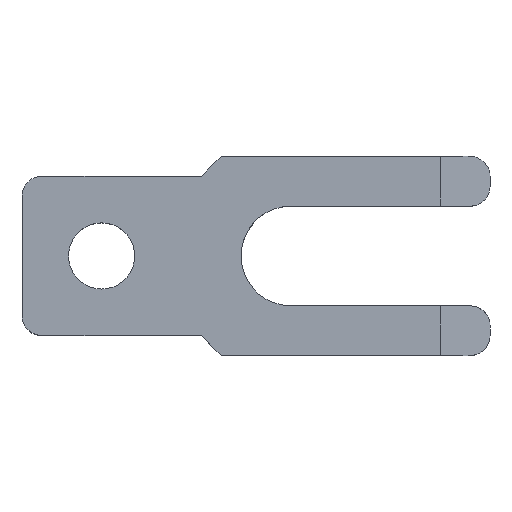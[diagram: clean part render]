
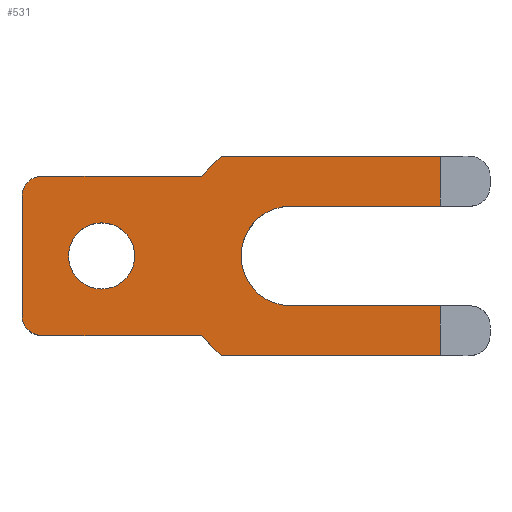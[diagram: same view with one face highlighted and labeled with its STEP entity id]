
A CAD part, top view. The second image highlights one B-rep face of the part: STEP entity #531.
In plain terms, the highlighted planar face has unit normal (0, 0, 1).
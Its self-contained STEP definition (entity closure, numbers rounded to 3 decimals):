
#17=FACE_BOUND('',#92,.T.);
#36=PLANE('',#577);
#62=FACE_OUTER_BOUND('',#91,.T.);
#91=EDGE_LOOP('',(#482,#483,#484,#485,#486,#487,#488,#489,#490,#491,#492,
#493,#494,#495));
#92=EDGE_LOOP('',(#496));
#97=CIRCLE('',#552,2.);
#102=CIRCLE('',#560,2.);
#103=CIRCLE('',#571,3.324);
#104=CIRCLE('',#574,5.);
#109=LINE('',#742,#167);
#118=LINE('',#769,#176);
#136=LINE('',#818,#194);
#147=LINE('',#840,#205);
#149=LINE('',#844,#207);
#150=LINE('',#846,#208);
#153=LINE('',#851,#211);
#155=LINE('',#855,#213);
#157=LINE('',#859,#215);
#159=LINE('',#867,#217);
#162=LINE('',#873,#220);
#167=VECTOR('',#594,5.);
#176=VECTOR('',#619,5.);
#194=VECTOR('',#659,12.);
#205=VECTOR('',#680,22.);
#207=VECTOR('',#684,2.828);
#208=VECTOR('',#687,16.);
#211=VECTOR('',#692,15.);
#213=VECTOR('',#696,16.);
#215=VECTOR('',#700,2.828);
#217=VECTOR('',#710,15.);
#220=VECTOR('',#719,22.);
#231=VERTEX_POINT('',#739);
#232=VERTEX_POINT('',#741);
#241=VERTEX_POINT('',#766);
#242=VERTEX_POINT('',#768);
#245=VERTEX_POINT('',#780);
#246=VERTEX_POINT('',#781);
#262=VERTEX_POINT('',#817);
#263=VERTEX_POINT('',#821);
#268=VERTEX_POINT('',#838);
#269=VERTEX_POINT('',#842);
#270=VERTEX_POINT('',#849);
#271=VERTEX_POINT('',#853);
#272=VERTEX_POINT('',#857);
#273=VERTEX_POINT('',#863);
#274=VERTEX_POINT('',#866);
#282=EDGE_CURVE('',#232,#231,#109,.T.);
#295=EDGE_CURVE('',#242,#241,#118,.T.);
#301=EDGE_CURVE('',#245,#246,#97,.T.);
#319=EDGE_CURVE('',#262,#246,#136,.T.);
#321=EDGE_CURVE('',#262,#263,#102,.T.);
#331=EDGE_CURVE('',#241,#268,#147,.T.);
#333=EDGE_CURVE('',#268,#269,#149,.T.);
#334=EDGE_CURVE('',#269,#263,#150,.T.);
#337=EDGE_CURVE('',#231,#270,#153,.T.);
#339=EDGE_CURVE('',#245,#271,#155,.T.);
#341=EDGE_CURVE('',#271,#272,#157,.T.);
#343=EDGE_CURVE('',#273,#273,#103,.T.);
#344=EDGE_CURVE('',#274,#242,#159,.T.);
#347=EDGE_CURVE('',#270,#274,#104,.T.);
#348=EDGE_CURVE('',#272,#232,#162,.T.);
#482=ORIENTED_EDGE('',*,*,#301,.F.);
#483=ORIENTED_EDGE('',*,*,#339,.T.);
#484=ORIENTED_EDGE('',*,*,#341,.T.);
#485=ORIENTED_EDGE('',*,*,#348,.T.);
#486=ORIENTED_EDGE('',*,*,#282,.T.);
#487=ORIENTED_EDGE('',*,*,#337,.T.);
#488=ORIENTED_EDGE('',*,*,#347,.T.);
#489=ORIENTED_EDGE('',*,*,#344,.T.);
#490=ORIENTED_EDGE('',*,*,#295,.T.);
#491=ORIENTED_EDGE('',*,*,#331,.T.);
#492=ORIENTED_EDGE('',*,*,#333,.T.);
#493=ORIENTED_EDGE('',*,*,#334,.T.);
#494=ORIENTED_EDGE('',*,*,#321,.F.);
#495=ORIENTED_EDGE('',*,*,#319,.T.);
#496=ORIENTED_EDGE('',*,*,#343,.T.);
#531=ADVANCED_FACE('',(#62,#17),#36,.T.);
#552=AXIS2_PLACEMENT_3D('',#782,#632,#633);
#560=AXIS2_PLACEMENT_3D('',#822,#663,#664);
#571=AXIS2_PLACEMENT_3D('',#864,#706,#707);
#574=AXIS2_PLACEMENT_3D('',#871,#715,#716);
#577=AXIS2_PLACEMENT_3D('',#875,#722,#723);
#594=DIRECTION('',(0.,1.,0.));
#619=DIRECTION('',(0.,1.,0.));
#632=DIRECTION('center_axis',(0.,0.,-1.));
#633=DIRECTION('ref_axis',(-0.707,-0.707,0.));
#659=DIRECTION('',(0.,-1.,0.));
#663=DIRECTION('center_axis',(0.,0.,-1.));
#664=DIRECTION('ref_axis',(-0.707,0.707,0.));
#680=DIRECTION('',(-1.,0.,0.));
#684=DIRECTION('',(-0.707,-0.707,0.));
#687=DIRECTION('',(-1.,0.,0.));
#692=DIRECTION('',(-1.,0.,0.));
#696=DIRECTION('',(1.,0.,0.));
#700=DIRECTION('',(0.707,-0.707,0.));
#706=DIRECTION('center_axis',(0.,0.,-1.));
#707=DIRECTION('ref_axis',(1.,0.,0.));
#710=DIRECTION('',(1.,0.,0.));
#715=DIRECTION('center_axis',(0.,0.,-1.));
#716=DIRECTION('ref_axis',(0.,1.,0.));
#719=DIRECTION('',(1.,0.,0.));
#722=DIRECTION('center_axis',(0.,0.,1.));
#723=DIRECTION('ref_axis',(1.,0.,0.));
#739=CARTESIAN_POINT('',(42.,-5.,9.8));
#741=CARTESIAN_POINT('',(42.,-10.,9.8));
#742=CARTESIAN_POINT('',(42.,0.,9.8));
#766=CARTESIAN_POINT('',(42.,10.,9.8));
#768=CARTESIAN_POINT('',(42.,5.,9.8));
#769=CARTESIAN_POINT('',(42.,0.,9.8));
#780=CARTESIAN_POINT('',(2.,-8.,9.8));
#781=CARTESIAN_POINT('',(0.,-6.,9.8));
#782=CARTESIAN_POINT('Origin',(2.,-6.,9.8));
#817=CARTESIAN_POINT('',(0.,6.,9.8));
#818=CARTESIAN_POINT('',(0.,-8.,9.8));
#821=CARTESIAN_POINT('',(2.,8.,9.8));
#822=CARTESIAN_POINT('Origin',(2.,6.,9.8));
#838=CARTESIAN_POINT('',(20.,10.,9.8));
#840=CARTESIAN_POINT('',(20.,10.,9.8));
#842=CARTESIAN_POINT('',(18.,8.,9.8));
#844=CARTESIAN_POINT('',(18.,8.,9.8));
#846=CARTESIAN_POINT('',(0.,8.,9.8));
#849=CARTESIAN_POINT('',(27.,-5.,9.8));
#851=CARTESIAN_POINT('',(27.,-5.,9.8));
#853=CARTESIAN_POINT('',(18.,-8.,9.8));
#855=CARTESIAN_POINT('',(18.,-8.,9.8));
#857=CARTESIAN_POINT('',(20.,-10.,9.8));
#859=CARTESIAN_POINT('',(20.,-10.,9.8));
#863=CARTESIAN_POINT('',(11.324,0.,9.8));
#864=CARTESIAN_POINT('Origin',(8.,0.,9.8));
#866=CARTESIAN_POINT('',(27.,5.,9.8));
#867=CARTESIAN_POINT('',(47.,5.,9.8));
#871=CARTESIAN_POINT('Origin',(27.,0.,9.8));
#873=CARTESIAN_POINT('',(47.,-10.,9.8));
#875=CARTESIAN_POINT('Origin',(25.779,0.,9.8));
